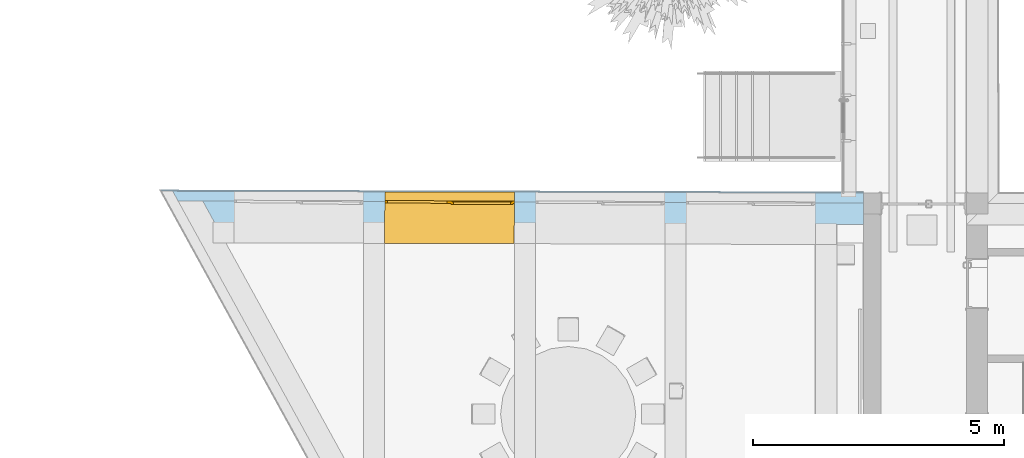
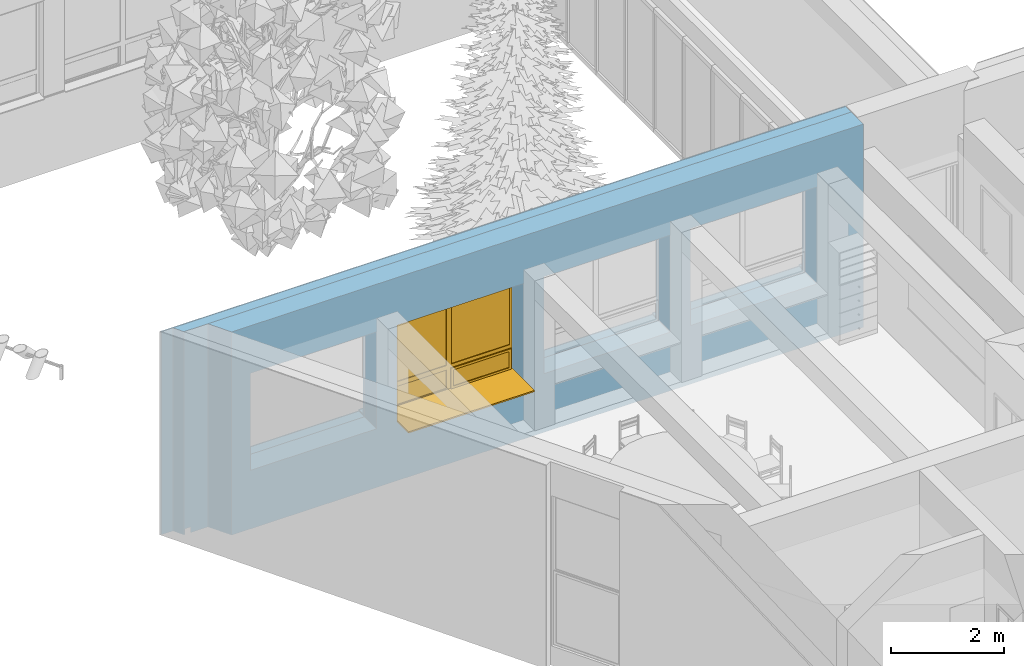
# One storey, part 84 of 194: 1 window, 4 openings, 1 element without a shape of its own, plus 3 elements that do not belong to this part.
"""IFC2X3 building model written with IfcOpenShell, lengths in millimetres."""

from ifc_helpers import new_model, entity, si_unit, converted_unit, derived_unit, money_unit, direction, frame, origin_with_axes, origin_2d_with_axis, place, context, subcontext, project, spatial, polyline, rectangle, outline, extrude, boolean, open_shell, faceted_brep, surface_model, material, type_object, element, fill, aggregate, save


model = new_model("IFC2X3")

# Units and contexts
model_context = context("Model", 3, precision=1e-05, world=origin_with_axes(), true_north=direction((0.0, 1.0)))
body_context = subcontext(model_context, "Body", "Model", "MODEL_VIEW")
ifc_project = project(units=[si_unit("LENGTHUNIT", "METRE", prefix="MILLI"), si_unit("AREAUNIT", "SQUARE_METRE"), si_unit("VOLUMEUNIT", "CUBIC_METRE"), converted_unit("PLANEANGLEUNIT", "DEGREE", entity("IfcPlaneAngleMeasure", 0.0174532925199), si_unit("PLANEANGLEUNIT", "RADIAN"), dimensions=[0, 0, 0, 0, 0, 0, 0]), si_unit("SOLIDANGLEUNIT", "STERADIAN"), money_unit("EUR"), converted_unit("TIMEUNIT", "Year", entity("IfcTimeMeasure", 31556926.0), si_unit("TIMEUNIT", "SECOND"), dimensions=[0, 0, 1, 0, 0, 0, 0]), si_unit("MASSUNIT", "GRAM", prefix="KILO"), si_unit("THERMODYNAMICTEMPERATUREUNIT", "DEGREE_CELSIUS"), si_unit("LUMINOUSINTENSITYUNIT", "LUMEN"), si_unit("ENERGYUNIT", "JOULE", prefix="MEGA"), derived_unit("THERMALCONDUCTANCEUNIT", [(si_unit("POWERUNIT", "WATT"), 1), (si_unit("LENGTHUNIT", "METRE"), -1), (si_unit("THERMODYNAMICTEMPERATUREUNIT", "KELVIN"), -1)]), derived_unit("SPECIFICHEATCAPACITYUNIT", [(si_unit("ENERGYUNIT", "JOULE"), 1), (si_unit("MASSUNIT", "GRAM", prefix="KILO"), -1), (si_unit("THERMODYNAMICTEMPERATUREUNIT", "KELVIN"), -1)]), derived_unit("MASSDENSITYUNIT", [(si_unit("MASSUNIT", "GRAM", prefix="KILO"), 1), (si_unit("VOLUMEUNIT", "CUBIC_METRE"), -1)])], contexts=[model_context])

# Site, building, storey
site_placement = place(None, origin_with_axes())
site = spatial("IfcSite", under=ifc_project, at=site_placement, Name="Site", CompositionType="ELEMENT")
building_placement = place(site_placement, origin_with_axes())
building = spatial("IfcBuilding", under=site, at=building_placement, Name="Building", CompositionType="ELEMENT")
storey_placement = place(building_placement, frame((0.0, 0.0, 3000.0), z_axis=(0.0, 0.0, 1.0), x_axis=(1.0, 0.0, 0.0)))
storey = spatial("IfcBuildingStorey", under=building, at=storey_placement, Name="2 KORRUS", CompositionType="ELEMENT", Elevation=3000.0)

# Window
window_style = type_object("IfcWindowStyle", Name="A2   2\xa0580×2\xa0100", ConstructionType="NOTDEFINED", OperationType="USERDEFINED", ParameterTakesPrecedence=False, Sizeable=False)
wall_placement = place(storey_placement, frame((24039.9995096, 22808.1040573, -420.0), z_axis=(0.0, 0.0, 1.0), x_axis=(0.999996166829, -0.0027688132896, 0.0)))
opening_3_placement = place(wall_placement, frame((5405.57062544, 0.0, 1270.0), z_axis=(0.0, 0.0, 1.0), x_axis=(1.0, 0.0, 0.0)))
window_placement = place(opening_3_placement, frame((1290.0, 9.09494701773e-10, 0.0), z_axis=(0.0, 0.0, 1.0), x_axis=(-1.0, 0.0, 0.0)))
window = element("IfcWindow", 1, at=window_placement, inside=storey, type_object=window_style, Name="välisaken * Double Window 22", OverallHeight=2100.0, OverallWidth=2580.0, context=body_context, shape_type="SurfaceModel", body=[
    faceted_brep([(2580.0, -219.999999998, 5.0), (2580.0, -19.9999999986, 5.0), (2580.0, -19.9999999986, 30.0), (2580.0, -219.999999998, 19.5184441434), (0.0, -19.9999999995, 5.0), (0.0, -219.999999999, 5.0), (0.0, -19.9999999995, 30.0), (0.0, -219.999999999, 19.5184441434)], [[[0, 1, 2, 3]], [[4, 1, 0, 5]], [[1, 4, 6, 2]], [[3, 2, 6, 7]], [[5, 0, 3, 7]], [[4, 5, 7, 6]]]),
    faceted_brep([(2580.0, -19.9999999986, 0.0), (2580.0, -19.9999999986, 5.0), (2580.0, -219.999999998, 5.0), (2580.0, -219.999999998, 0.0), (0.0, -19.9999999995, 0.0), (0.0, -19.9999999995, 5.0), (0.0, -219.999999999, 5.0), (0.0, -219.999999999, 0.0)], [[[0, 1, 2, 3]], [[4, 5, 1, 0]], [[1, 5, 6, 2]], [[3, 2, 6, 7]], [[0, 3, 7, 4]], [[7, 6, 5, 4]]]),
    faceted_brep([(-1.13686837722e-10, 30.0000000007, 0.0), (-1.13686837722e-10, 30.0000000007, 30.0), (0.0, 430.0, 30.0), (0.0, 430.0, 0.0), (2580.0, 30.0000000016, 0.0), (2580.0, 30.0000000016, 30.0), (2580.0, 430.000000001, 30.0), (2580.0, 830.000000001, 30.0), (0.0, 830.000000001, 30.0), (0.0, 830.000000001, 0.0), (2580.0, 830.000000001, 0.0), (2580.0, 430.000000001, 0.0)], [[[0, 1, 2, 3]], [[4, 5, 1, 0]], [[1, 5, 6, 7, 8, 2]], [[3, 2, 8, 9]], [[0, 3, 9, 10, 11, 4]], [[11, 6, 5, 4]], [[10, 7, 6, 11]], [[9, 8, 7, 10]]]),
    faceted_brep([(25.0, 30.0000000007, 475.0), (25.0, 30.0000000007, 50.0), (-1.13686837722e-10, 30.0000000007, 50.0), (-1.13686837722e-10, 30.0000000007, 2050.0), (50.0, 30.0000000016, 2050.0), (50.0, 30.0000000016, 550.0), (50.0, 30.0000000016, 475.0), (25.0, 5.00000000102, 475.0), (25.0, 5.00000000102, 50.0), (50.0, 5.00000000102, 50.0), (50.0, -19.9999999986, 50.0), (0.0, -19.9999999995, 50.0), (0.0, -19.9999999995, 2050.0), (50.0, -19.9999999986, 2050.0), (50.0, -19.9999999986, 550.0), (50.0, 5.00000000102, 475.0), (50.0, -19.9999999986, 450.0), (50.0, 5.00000000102, 450.0)], [[[0, 1, 2, 3, 4, 5, 6]], [[1, 0, 7, 8]], [[8, 9, 10, 11, 2, 1]], [[2, 11, 12, 3]], [[3, 12, 13, 4]], [[4, 13, 14, 5]], [[15, 6, 5, 14, 16, 17]], [[0, 6, 15, 7]], [[9, 8, 7, 15, 17]], [[9, 17, 16, 10]], [[11, 10, 16, 14, 13, 12]]]),
    faceted_brep([(1265.0, 30.0000000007, 50.0), (1265.0, 30.0000000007, 475.0), (1240.0, 30.0000000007, 475.0), (1240.0, 30.0000000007, 550.0), (1240.0, 30.0000000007, 2050.0), (1340.0, 30.0000000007, 2050.0), (1340.0, 30.0000000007, 550.0), (1340.0, 30.0000000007, 450.0), (1340.0, 30.0000000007, 50.0), (1265.0, 5.00000000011, 50.0), (1265.0, 5.00000000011, 475.0), (1240.0, 5.00000000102, 475.0), (1240.0, 5.00000000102, 450.0), (1240.0, -19.9999999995, 450.0), (1240.0, -19.9999999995, 550.0), (1240.0, -19.9999999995, 2050.0), (1340.0, -19.9999999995, 2050.0), (1340.0, -19.9999999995, 550.0), (1340.0, -19.9999999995, 450.0), (1340.0, -19.9999999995, 50.0), (1240.0, -19.9999999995, 50.0), (1240.0, 5.00000000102, 50.0)], [[[0, 1, 2, 3, 4, 5, 6, 7, 8]], [[1, 0, 9, 10]], [[11, 2, 1, 10]], [[11, 12, 13, 14, 3, 2]], [[3, 14, 15, 4]], [[4, 15, 16, 5]], [[5, 16, 17, 6]], [[6, 17, 18, 7]], [[7, 18, 19, 8]], [[9, 0, 8, 19, 20, 21]], [[12, 11, 10, 9, 21]], [[12, 21, 20, 13]], [[18, 17, 16, 15, 14, 13, 20, 19]]]),
    faceted_brep([(1240.0, 30.0000000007, 475.0), (50.0, 30.0000000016, 475.0), (50.0, 30.0000000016, 550.0), (1240.0, 30.0000000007, 550.0), (50.0, 5.00000000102, 475.0), (1240.0, 5.00000000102, 475.0), (50.0, 5.00000000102, 450.0), (50.0, -19.9999999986, 450.0), (50.0, -19.9999999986, 550.0), (1240.0, -19.9999999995, 550.0), (1240.0, -19.9999999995, 450.0), (1240.0, 5.00000000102, 450.0)], [[[0, 1, 2, 3]], [[4, 1, 0, 5]], [[4, 6, 7, 8, 2, 1]], [[2, 8, 9, 3]], [[5, 0, 3, 9, 10, 11]], [[6, 4, 5, 11]], [[6, 11, 10, 7]], [[10, 9, 8, 7]]]),
    faceted_brep([(50.0, 5.00000000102, 50.0), (25.0, 5.00000000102, 50.0), (25.0, 30.0000000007, 50.0), (-1.13686837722e-10, 30.0000000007, 50.0), (0.0, -19.9999999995, 50.0), (50.0, -19.9999999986, 50.0), (1240.0, 5.00000000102, 50.0), (1265.0, 5.00000000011, 50.0), (1265.0, 5.00000000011, 25.0), (25.0, 5.00000000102, 25.0), (25.0, 30.0000000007, 25.0), (1265.0, 30.0000000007, 25.0), (1265.0, 30.0000000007, 50.0), (1340.0, 30.0000000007, 50.0), (2530.0, 30.0000000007, 50.0), (2580.0, 30.0000000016, 50.0), (2580.0, 30.0000000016, 0.0), (-1.13686837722e-10, 30.0000000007, 0.0), (0.0, -19.9999999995, 0.0), (2580.0, -19.9999999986, 50.0), (2530.0, -19.9999999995, 50.0), (1340.0, -19.9999999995, 50.0), (1240.0, -19.9999999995, 50.0), (2580.0, -19.9999999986, 0.0)], [[[0, 1, 2, 3, 4, 5]], [[1, 0, 6, 7, 8, 9]], [[10, 2, 1, 9]], [[11, 12, 13, 14, 15, 16, 17, 3, 2, 10]], [[17, 18, 4, 3]], [[19, 20, 21, 22, 5, 4, 18, 23]], [[6, 0, 5, 22]], [[7, 6, 22, 21, 13, 12]], [[7, 12, 11, 8]], [[11, 10, 9, 8]], [[13, 21, 20, 14]], [[14, 20, 19, 15]], [[15, 19, 23, 16]], [[16, 23, 18, 17]]]),
    faceted_brep([(2530.0, -19.9999999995, 450.0), (2530.0, -19.9999999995, 550.0), (2530.0, 30.0000000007, 550.0), (2530.0, 30.0000000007, 450.0), (2530.0, -19.9999999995, 50.0), (2580.0, -19.9999999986, 50.0), (2580.0, -19.9999999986, 2050.0), (2530.0, -19.9999999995, 2050.0), (2530.0, 30.0000000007, 2050.0), (2580.0, 30.0000000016, 2050.0), (2580.0, 30.0000000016, 50.0), (2530.0, 30.0000000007, 50.0)], [[[0, 1, 2, 3]], [[0, 4, 5, 6, 7, 1]], [[1, 7, 8, 2]], [[3, 2, 8, 9, 10, 11]], [[4, 0, 3, 11]], [[5, 4, 11, 10]], [[6, 5, 10, 9]], [[7, 6, 9, 8]]]),
    faceted_brep([(1340.0, -19.9999999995, 450.0), (1340.0, -19.9999999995, 550.0), (1340.0, 30.0000000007, 550.0), (1340.0, 30.0000000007, 450.0), (2530.0, -19.9999999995, 450.0), (2530.0, -19.9999999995, 550.0), (2530.0, 30.0000000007, 550.0), (2530.0, 30.0000000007, 450.0)], [[[0, 1, 2, 3]], [[0, 4, 5, 1]], [[1, 5, 6, 2]], [[3, 2, 6, 7]], [[4, 0, 3, 7]], [[5, 4, 7, 6]]]),
    faceted_brep([(1340.0, -19.9999999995, 2050.0), (1240.0, -19.9999999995, 2050.0), (1240.0, 30.0000000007, 2050.0), (1340.0, 30.0000000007, 2050.0), (2530.0, -19.9999999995, 2050.0), (2580.0, -19.9999999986, 2050.0), (2580.0, -19.9999999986, 2100.0), (0.0, -19.9999999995, 2100.0), (0.0, -19.9999999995, 2050.0), (50.0, -19.9999999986, 2050.0), (50.0, 30.0000000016, 2050.0), (-1.13686837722e-10, 30.0000000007, 2050.0), (-1.13686837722e-10, 30.0000000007, 2100.0), (2580.0, 30.0000000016, 2100.0), (2580.0, 30.0000000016, 2050.0), (2530.0, 30.0000000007, 2050.0)], [[[0, 1, 2, 3]], [[0, 4, 5, 6, 7, 8, 9, 1]], [[1, 9, 10, 2]], [[3, 2, 10, 11, 12, 13, 14, 15]], [[4, 0, 3, 15]], [[5, 4, 15, 14]], [[6, 5, 14, 13]], [[7, 6, 13, 12]], [[8, 7, 12, 11]], [[9, 8, 11, 10]]]),
    surface_model("IfcShellBasedSurfaceModel", [(2530.0, -4.9999999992, 550.0), (2530.0, -4.9999999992, 2050.0), (1340.0, -5.00000000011, 2050.0), (1340.0, -5.00000000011, 550.0)], [open_shell([[[0, 1, 2, 3]]])]),
    surface_model("IfcShellBasedSurfaceModel", [(2530.0, 15.0000000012, 550.0), (1340.0, 15.0000000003, 550.0), (1340.0, 15.0000000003, 2050.0), (2530.0, 15.0000000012, 2050.0)], [open_shell([[[0, 1, 2, 3]]])]),
    surface_model("IfcShellBasedSurfaceModel", [(1240.0, -4.99999999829, 550.0), (1240.0, -4.99999999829, 2050.0), (50.0, -4.9999999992, 2050.0), (50.0, -4.9999999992, 550.0)], [open_shell([[[0, 1, 2, 3]]])]),
    surface_model("IfcShellBasedSurfaceModel", [(1240.0, 15.0000000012, 550.0), (50.0, 15.0000000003, 550.0), (50.0, 15.0000000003, 2050.0), (1240.0, 15.0000000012, 2050.0)], [open_shell([[[0, 1, 2, 3]]])]),
    surface_model("IfcShellBasedSurfaceModel", [(2530.0, -4.9999999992, 50.0), (2530.0, -4.9999999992, 450.0), (1340.0, -5.00000000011, 450.0), (1340.0, -5.00000000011, 50.0)], [open_shell([[[0, 1, 2, 3]]])]),
    surface_model("IfcShellBasedSurfaceModel", [(2530.0, 15.0000000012, 50.0), (1340.0, 15.0000000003, 50.0), (1340.0, 15.0000000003, 450.0), (2530.0, 15.0000000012, 450.0)], [open_shell([[[0, 1, 2, 3]]])]),
    faceted_brep([(1215.0, 5.00000000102, 425.0), (1265.0, 5.00000000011, 425.0), (1265.0, 55.0000000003, 425.0), (1215.0, 55.0000000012, 425.0), (1215.0, 5.00000000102, 75.0), (1265.0, 5.00000000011, 75.0), (1265.0, 55.0000000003, 75.0), (1215.0, 55.0000000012, 75.0)], [[[0, 1, 2, 3]], [[0, 4, 5, 1]], [[1, 5, 6, 2]], [[3, 2, 6, 7]], [[4, 0, 3, 7]], [[5, 4, 7, 6]]]),
    faceted_brep([(74.9999999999, 5.00000000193, 75.0), (25.0, 5.00000000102, 75.0), (25.0, 55.0000000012, 75.0), (75.0, 55.0000000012, 75.0), (74.9999999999, 5.00000000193, 425.0), (25.0, 5.00000000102, 425.0), (25.0, 55.0000000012, 425.0), (75.0, 55.0000000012, 425.0)], [[[0, 1, 2, 3]], [[0, 4, 5, 1]], [[1, 5, 6, 2]], [[3, 2, 6, 7]], [[4, 0, 3, 7]], [[5, 4, 7, 6]]]),
    faceted_brep([(25.0, 5.00000000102, 25.0), (25.0, 5.00000000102, 75.0), (25.0, 55.0000000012, 75.0), (25.0, 55.0000000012, 25.0), (1265.0, 5.00000000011, 25.0), (1265.0, 5.00000000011, 75.0), (1215.0, 5.00000000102, 75.0), (74.9999999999, 5.00000000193, 75.0), (75.0, 55.0000000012, 75.0), (1215.0, 55.0000000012, 75.0), (1265.0, 55.0000000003, 75.0), (1265.0, 55.0000000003, 25.0)], [[[0, 1, 2, 3]], [[0, 4, 5, 6, 7, 1]], [[1, 7, 8, 2]], [[3, 2, 8, 9, 10, 11]], [[4, 0, 3, 11]], [[5, 4, 11, 10]], [[6, 5, 10, 9]], [[7, 6, 9, 8]]]),
    faceted_brep([(1265.0, 5.00000000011, 475.0), (1265.0, 5.00000000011, 425.0), (1265.0, 55.0000000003, 425.0), (1265.0, 55.0000000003, 475.0), (25.0, 5.00000000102, 475.0), (25.0, 5.00000000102, 425.0), (74.9999999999, 5.00000000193, 425.0), (1215.0, 5.00000000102, 425.0), (1215.0, 55.0000000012, 425.0), (75.0, 55.0000000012, 425.0), (25.0, 55.0000000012, 425.0), (25.0, 55.0000000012, 475.0)], [[[0, 1, 2, 3]], [[0, 4, 5, 6, 7, 1]], [[1, 7, 8, 2]], [[3, 2, 8, 9, 10, 11]], [[4, 0, 3, 11]], [[5, 4, 11, 10]], [[6, 5, 10, 9]], [[7, 6, 9, 8]]]),
    surface_model("IfcShellBasedSurfaceModel", [(1215.0, 20.0000000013, 75.0), (1215.0, 20.0000000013, 425.0), (75.0, 20.0000000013, 425.0), (75.0, 20.0000000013, 75.0)], [open_shell([[[0, 1, 2, 3]]])]),
    surface_model("IfcShellBasedSurfaceModel", [(1215.0, 40.0000000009, 75.0), (75.0, 40.0000000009, 75.0), (75.0, 40.0000000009, 425.0), (1215.0, 40.0000000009, 425.0)], [open_shell([[[0, 1, 2, 3]]])]),
])

# Wall, openings
wall_type = type_object("IfcWallType", Name="VS4", PredefinedType="NOTDEFINED")
wall = element("IfcWall", 2, at=wall_placement, inside=storey, type_object=wall_type, Name="VS4")
opening_1_placement = place(wall_placement, frame((11402.4933934, 0.0, 1270.0), z_axis=(0.0, 0.0, 1.0), x_axis=(1.0, 0.0, 0.0)))
element("IfcOpeningElement", 3, at=opening_1_placement, cuts=wall, Name="välisaken * Double Window 22", context=body_context, shape_type="SweptSolid", body=[
    extrude(rectangle(XDim=2580.0, YDim=2100.0, at=origin_2d_with_axis()), frame((0.0, 19.9999999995, 1050.0), z_axis=(0.0, -1.0, 0.0), x_axis=(1.0, 0.0, 0.0)), (0.0, 0.0, 1.0), 1100.0),
    extrude(rectangle(XDim=2580.0, YDim=2100.0, at=origin_2d_with_axis()), frame((1.13686837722e-10, 19.9999999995, 1050.0), z_axis=(0.0, 1.0, 0.0), x_axis=(1.0, 0.0, 0.0)), (0.0, 0.0, 1.0), 850.0),
])
opening_2_placement = place(wall_placement, frame((8405.57062544, -9.09494701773e-10, 1270.0), z_axis=(0.0, 0.0, 1.0), x_axis=(1.0, 0.0, 0.0)))
element("IfcOpeningElement", 4, at=opening_2_placement, cuts=wall, Name="välisaken * Double Window 22", context=body_context, shape_type="SweptSolid", body=[
    extrude(rectangle(XDim=2580.0, YDim=2100.0, at=origin_2d_with_axis()), frame((0.0, 19.9999999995, 1050.0), z_axis=(0.0, -1.0, 0.0), x_axis=(1.0, 0.0, 0.0)), (0.0, 0.0, 1.0), 1100.0),
    extrude(rectangle(XDim=2580.0, YDim=2100.0, at=origin_2d_with_axis()), frame((0.0, 19.9999999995, 1050.0), z_axis=(0.0, 1.0, 0.0), x_axis=(1.0, 0.0, 0.0)), (0.0, 0.0, 1.0), 850.0),
])
opening_3 = element("IfcOpeningElement", 5, at=opening_3_placement, cuts=wall, Name="välisaken * Double Window 22", context=body_context, shape_type="SweptSolid", body=[
    extrude(rectangle(XDim=2580.0, YDim=2100.0, at=origin_2d_with_axis()), frame((1.13686837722e-10, 20.0000000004, 1050.0), z_axis=(0.0, -1.0, 0.0), x_axis=(1.0, 0.0, 0.0)), (0.0, 0.0, 1.0), 1100.0),
    extrude(rectangle(XDim=2580.0, YDim=2100.0, at=origin_2d_with_axis()), frame((1.13686837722e-10, 20.0000000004, 1050.0), z_axis=(0.0, 1.0, 0.0), x_axis=(1.0, 0.0, 0.0)), (0.0, 0.0, 1.0), 850.0),
])

fill(opening_3, window)

# Opening
opening_4_placement = place(wall_placement, frame((2405.57062544, 9.09494701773e-10, 1270.0), z_axis=(0.0, 0.0, 1.0), x_axis=(1.0, 0.0, 0.0)))
element("IfcOpeningElement", 6, at=opening_4_placement, cuts=wall, Name="välisaken * Double Window 22", context=body_context, shape_type="SweptSolid", body=[
    extrude(rectangle(XDim=2580.0, YDim=2100.0, at=origin_2d_with_axis()), frame((1.13686837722e-10, 19.9999999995, 1050.0), z_axis=(0.0, -1.0, 0.0), x_axis=(1.0, 0.0, 0.0)), (0.0, 0.0, 1.0), 1100.0),
    extrude(rectangle(XDim=2580.0, YDim=2100.0, at=origin_2d_with_axis()), frame((1.13686837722e-10, 19.9999999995, 1050.0), z_axis=(0.0, 1.0, 0.0), x_axis=(1.0, 0.0, 0.0)), (0.0, 0.0, 1.0), 850.0),
])

# Building element part
ifc_material_1 = material(Name="Tellis - Konstuktsioon")
building_element_part_1_placement = place(wall_placement, origin_with_axes())
solid_1 = boolean("DIFFERENCE", boolean("DIFFERENCE", boolean("DIFFERENCE", boolean("DIFFERENCE", boolean("DIFFERENCE", boolean("DIFFERENCE", boolean("DIFFERENCE", boolean("DIFFERENCE", extrude(outline(polyline([(-373.259010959, -430.0), (13648.1213334, -430.0), (13648.1213334, 0.0), (-373.259010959, 0.0), (-373.259010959, -430.0)])), origin_with_axes(), (0.0, 0.0, 1.0), 4400.0), faceted_brep([(729.551703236, -430.0, 0.0), (729.551703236, -430.0, 4400.0), (-373.259010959, -430.0, 4400.0), (-373.259010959, -430.0, 0.0), (491.497507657, 0.0, 4400.0), (491.497507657, 0.0, 0.0), (-373.259010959, 0.0, 4400.0), (-373.259010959, 0.0, 0.0)], [[[0, 1, 2, 3]], [[4, 1, 0, 5]], [[1, 4, 6, 2]], [[3, 2, 6, 7]], [[5, 0, 3, 7]], [[4, 5, 7, 6]]])), faceted_brep([(18.915191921, 0.0, 122.647898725), (18.9151919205, 9.09494701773e-10, 0.0), (134.721092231, 9.09494701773e-10, 0.0), (134.72109223, 0.0, 122.647898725), (-90.7482444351, 200.0, 122.647898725), (-90.7482444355, 200.000000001, 0.0), (479.482351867, 200.000000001, 0.0), (484.103394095, 191.572319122, 0.0), (484.103394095, 191.572319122, 122.647898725), (479.482351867, 200.0, 122.647898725)], [[[0, 1, 2, 3]], [[1, 0, 4, 5]], [[2, 1, 5, 6, 7]], [[3, 2, 7, 8]], [[0, 3, 8, 9, 4]], [[5, 4, 9, 6]], [[7, 6, 9, 8]]])), faceted_brep([(-373.259010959, 0.0, 0.0), (0.0, 9.09494701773e-10, 0.0), (0.0, 9.09494701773e-10, 4400.0), (-373.259010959, 0.0, 4400.0), (-373.259010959, 200.0, 0.0), (-110.722881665, 200.000000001, 0.0), (-110.722881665, 200.000000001, 4400.0), (-373.259010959, 200.0, 4400.0)], [[[0, 1, 2, 3]], [[1, 0, 4, 5]], [[2, 1, 5, 6]], [[3, 2, 6, 7]], [[4, 0, 3, 7]], [[5, 4, 7, 6]]])), faceted_brep([(13416.1760753, 0.0081175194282, 340.0), (13416.176095, 9.09494701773e-10, 420.0), (13323.1995313, 0.151845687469, 420.0), (13323.1995313, 0.151845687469, 340.0), (13416.176095, 9.09494701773e-10, 0.0), (13648.1213334, 0.0, 0.0), (13648.1213334, 0.0, 420.0), (13648.1213334, 200.0, 420.0), (13322.7166463, 200.000000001, 420.0), (13322.7166463, 200.000000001, 340.0), (13415.6925541, 200.0, 340.0), (13415.6925541, 200.0, 0.0), (13648.1213334, 200.0, 0.0)], [[[0, 1, 2, 3]], [[0, 4, 5, 6, 1]], [[2, 1, 6, 7, 8]], [[3, 2, 8, 9]], [[0, 3, 9, 10]], [[4, 0, 10, 11]], [[5, 4, 11, 12]], [[6, 5, 12, 7]], [[9, 8, 7, 12, 11, 10]]])), faceted_brep([(728.20897733, 54.9444939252, 1300.0), (12965.6129154, 88.8277104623, 1300.0), (12965.6129154, 88.8277104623, 3400.0), (728.20897733, 54.9444939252, 3400.0), (727.807344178, 200.0, 1300.0), (12965.3050989, 200.0, 1300.0), (12965.3050989, 200.0, 3400.0), (727.807344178, 200.0, 3400.0)], [[[0, 1, 2, 3]], [[0, 4, 5, 1]], [[1, 5, 6, 2]], [[7, 3, 2, 6]], [[3, 7, 4, 0]], [[6, 5, 4, 7]]])), faceted_brep([(-339.326373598, 200.000000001, 0.0), (-339.326373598, 200.000000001, 4400.0), (-373.259010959, 200.0, 4400.0), (-373.259010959, 200.0, 0.0), (-350.398661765, 220.0, 4400.0), (-350.398661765, 220.0, 0.0), (-373.259010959, 219.999999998, 4400.0), (-373.259010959, 219.999999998, 0.0)], [[[0, 1, 2, 3]], [[4, 1, 0, 5]], [[1, 4, 6, 2]], [[6, 7, 3, 2]], [[5, 0, 3, 7]], [[4, 5, 7, 6]]])), faceted_brep([(-90.7482444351, 200.0, 122.647898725), (-90.7482444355, 200.000000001, 0.0), (479.482351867, 200.000000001, 0.0), (479.482351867, 200.0, 122.647898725), (-101.714588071, 220.000000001, 0.0), (-101.714588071, 220.000000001, 122.647898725), (468.516008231, 220.0, 0.0), (468.516008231, 220.000000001, 122.647898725)], [[[0, 1, 2, 3]], [[4, 1, 0, 5]], [[6, 2, 1, 4]], [[2, 6, 7, 3]], [[7, 5, 0, 3]], [[7, 6, 4, 5]]])), faceted_brep([(727.807344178, 200.0, 1300.0), (12965.3050989, 200.0, 1300.0), (12965.3050989, 200.0, 3400.0), (727.807344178, 200.0, 3400.0), (727.7519677, 220.0, 1300.0), (12965.2497224, 220.000000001, 1300.0), (12965.2497224, 220.000000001, 3400.0), (727.7519677, 219.999999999, 3400.0)], [[[0, 1, 2, 3]], [[4, 5, 1, 0]], [[5, 6, 2, 1]], [[6, 7, 3, 2]], [[7, 4, 0, 3]], [[4, 7, 6, 5]]]))
building_element_part_1 = element("IfcBuildingElementPart", 7, at=building_element_part_1_placement, material=ifc_material_1, Name="Tellis - Konstuktsioon", context=body_context, shape_type="CSG", body=[
    boolean("DIFFERENCE", solid_1, faceted_brep([(13322.6683211, 220.000000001, 340.0), (13322.6683211, 220.000000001, 420.0), (13648.1213334, 220.0, 420.0), (13648.1213334, 219.999999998, 0.0), (13415.6442, 220.0, 0.0), (13415.6442, 220.0, 340.0), (13322.7166463, 200.000000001, 340.0), (13322.7166463, 200.000000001, 420.0), (13648.1213334, 200.0, 420.0), (13648.1213334, 200.0, 0.0), (13415.6925541, 200.0, 0.0), (13415.6925541, 200.0, 340.0)], [[[0, 1, 2, 3, 4, 5]], [[1, 0, 6, 7]], [[8, 2, 1, 7]], [[2, 8, 9, 3]], [[10, 4, 3, 9]], [[5, 4, 10, 11]], [[0, 5, 11, 6]], [[11, 10, 9, 8, 7, 6]]])),
])

ifc_material_2 = material(Name="Soojustus - Plastik Kõva")
building_element_part_2_placement = place(wall_placement, origin_with_axes())
solid_2 = boolean("DIFFERENCE", boolean("DIFFERENCE", boolean("DIFFERENCE", boolean("DIFFERENCE", boolean("DIFFERENCE", boolean("DIFFERENCE", boolean("DIFFERENCE", boolean("DIFFERENCE", extrude(outline(polyline([(-373.259010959, 0.0), (13648.1213334, 0.0), (13648.1213334, 200.0), (-373.259010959, 200.0), (-373.259010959, 0.0)])), origin_with_axes(), (0.0, 0.0, 1.0), 4400.0), faceted_brep([(729.551703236, -430.0, 0.0), (729.551703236, -430.0, 4400.0), (-373.259010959, -430.0, 4400.0), (-373.259010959, -430.0, 0.0), (491.497507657, 0.0, 4400.0), (491.497507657, 0.0, 0.0), (-373.259010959, 0.0, 4400.0), (-373.259010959, 0.0, 0.0)], [[[0, 1, 2, 3]], [[4, 1, 0, 5]], [[1, 4, 6, 2]], [[3, 2, 6, 7]], [[5, 0, 3, 7]], [[4, 5, 7, 6]]])), faceted_brep([(18.915191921, 0.0, 122.647898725), (18.9151919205, 9.09494701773e-10, 0.0), (134.721092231, 9.09494701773e-10, 0.0), (134.72109223, 0.0, 122.647898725), (-90.7482444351, 200.0, 122.647898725), (-90.7482444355, 200.000000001, 0.0), (479.482351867, 200.000000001, 0.0), (484.103394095, 191.572319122, 0.0), (484.103394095, 191.572319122, 122.647898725), (479.482351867, 200.0, 122.647898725)], [[[0, 1, 2, 3]], [[1, 0, 4, 5]], [[2, 1, 5, 6, 7]], [[3, 2, 7, 8]], [[0, 3, 8, 9, 4]], [[5, 4, 9, 6]], [[7, 6, 9, 8]]])), faceted_brep([(-373.259010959, 0.0, 0.0), (0.0, 9.09494701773e-10, 0.0), (0.0, 9.09494701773e-10, 4400.0), (-373.259010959, 0.0, 4400.0), (-373.259010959, 200.0, 0.0), (-110.722881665, 200.000000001, 0.0), (-110.722881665, 200.000000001, 4400.0), (-373.259010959, 200.0, 4400.0)], [[[0, 1, 2, 3]], [[1, 0, 4, 5]], [[2, 1, 5, 6]], [[3, 2, 6, 7]], [[4, 0, 3, 7]], [[5, 4, 7, 6]]])), faceted_brep([(13416.1760753, 0.0081175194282, 340.0), (13416.176095, 9.09494701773e-10, 420.0), (13323.1995313, 0.151845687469, 420.0), (13323.1995313, 0.151845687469, 340.0), (13416.176095, 9.09494701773e-10, 0.0), (13648.1213334, 0.0, 0.0), (13648.1213334, 0.0, 420.0), (13648.1213334, 200.0, 420.0), (13322.7166463, 200.000000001, 420.0), (13322.7166463, 200.000000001, 340.0), (13415.6925541, 200.0, 340.0), (13415.6925541, 200.0, 0.0), (13648.1213334, 200.0, 0.0)], [[[0, 1, 2, 3]], [[0, 4, 5, 6, 1]], [[2, 1, 6, 7, 8]], [[3, 2, 8, 9]], [[0, 3, 9, 10]], [[4, 0, 10, 11]], [[5, 4, 11, 12]], [[6, 5, 12, 7]], [[9, 8, 7, 12, 11, 10]]])), faceted_brep([(728.20897733, 54.9444939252, 1300.0), (12965.6129154, 88.8277104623, 1300.0), (12965.6129154, 88.8277104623, 3400.0), (728.20897733, 54.9444939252, 3400.0), (727.807344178, 200.0, 1300.0), (12965.3050989, 200.0, 1300.0), (12965.3050989, 200.0, 3400.0), (727.807344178, 200.0, 3400.0)], [[[0, 1, 2, 3]], [[0, 4, 5, 1]], [[1, 5, 6, 2]], [[7, 3, 2, 6]], [[3, 7, 4, 0]], [[6, 5, 4, 7]]])), faceted_brep([(-339.326373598, 200.000000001, 0.0), (-339.326373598, 200.000000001, 4400.0), (-373.259010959, 200.0, 4400.0), (-373.259010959, 200.0, 0.0), (-350.398661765, 220.0, 4400.0), (-350.398661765, 220.0, 0.0), (-373.259010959, 219.999999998, 4400.0), (-373.259010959, 219.999999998, 0.0)], [[[0, 1, 2, 3]], [[4, 1, 0, 5]], [[1, 4, 6, 2]], [[6, 7, 3, 2]], [[5, 0, 3, 7]], [[4, 5, 7, 6]]])), faceted_brep([(-90.7482444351, 200.0, 122.647898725), (-90.7482444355, 200.000000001, 0.0), (479.482351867, 200.000000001, 0.0), (479.482351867, 200.0, 122.647898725), (-101.714588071, 220.000000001, 0.0), (-101.714588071, 220.000000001, 122.647898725), (468.516008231, 220.0, 0.0), (468.516008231, 220.000000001, 122.647898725)], [[[0, 1, 2, 3]], [[4, 1, 0, 5]], [[6, 2, 1, 4]], [[2, 6, 7, 3]], [[7, 5, 0, 3]], [[7, 6, 4, 5]]])), faceted_brep([(727.807344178, 200.0, 1300.0), (12965.3050989, 200.0, 1300.0), (12965.3050989, 200.0, 3400.0), (727.807344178, 200.0, 3400.0), (727.7519677, 220.0, 1300.0), (12965.2497224, 220.000000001, 1300.0), (12965.2497224, 220.000000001, 3400.0), (727.7519677, 219.999999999, 3400.0)], [[[0, 1, 2, 3]], [[4, 5, 1, 0]], [[5, 6, 2, 1]], [[6, 7, 3, 2]], [[7, 4, 0, 3]], [[4, 7, 6, 5]]]))
building_element_part_2 = element("IfcBuildingElementPart", 8, at=building_element_part_2_placement, material=ifc_material_2, Name="Soojustus - Plastik Kõva", context=body_context, shape_type="CSG", body=[
    boolean("DIFFERENCE", solid_2, faceted_brep([(13322.6683211, 220.000000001, 340.0), (13322.6683211, 220.000000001, 420.0), (13648.1213334, 220.0, 420.0), (13648.1213334, 219.999999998, 0.0), (13415.6442, 220.0, 0.0), (13415.6442, 220.0, 340.0), (13322.7166463, 200.000000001, 340.0), (13322.7166463, 200.000000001, 420.0), (13648.1213334, 200.0, 420.0), (13648.1213334, 200.0, 0.0), (13415.6925541, 200.0, 0.0), (13415.6925541, 200.0, 340.0)], [[[0, 1, 2, 3, 4, 5]], [[1, 0, 6, 7]], [[8, 2, 1, 7]], [[2, 8, 9, 3]], [[10, 4, 3, 9]], [[5, 4, 10, 11]], [[0, 5, 11, 6]], [[11, 10, 9, 8, 7, 6]]])),
])

ifc_material_3 = material(Name="Tellis - Viimistlus")
building_element_part_3_placement = place(wall_placement, origin_with_axes())
solid_3 = boolean("DIFFERENCE", boolean("DIFFERENCE", boolean("DIFFERENCE", boolean("DIFFERENCE", boolean("DIFFERENCE", boolean("DIFFERENCE", boolean("DIFFERENCE", boolean("DIFFERENCE", extrude(outline(polyline([(-373.259010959, 200.0), (13648.1213334, 200.0), (13648.1213334, 219.999999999), (-373.259010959, 219.999999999), (-373.259010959, 200.0)])), origin_with_axes(), (0.0, 0.0, 1.0), 4400.0), faceted_brep([(729.551703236, -430.0, 0.0), (729.551703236, -430.0, 4400.0), (-373.259010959, -430.0, 4400.0), (-373.259010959, -430.0, 0.0), (491.497507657, 0.0, 4400.0), (491.497507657, 0.0, 0.0), (-373.259010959, 0.0, 4400.0), (-373.259010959, 0.0, 0.0)], [[[0, 1, 2, 3]], [[4, 1, 0, 5]], [[1, 4, 6, 2]], [[3, 2, 6, 7]], [[5, 0, 3, 7]], [[4, 5, 7, 6]]])), faceted_brep([(18.915191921, 0.0, 122.647898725), (18.9151919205, 9.09494701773e-10, 0.0), (134.721092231, 9.09494701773e-10, 0.0), (134.72109223, 0.0, 122.647898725), (-90.7482444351, 200.0, 122.647898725), (-90.7482444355, 200.000000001, 0.0), (479.482351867, 200.000000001, 0.0), (484.103394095, 191.572319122, 0.0), (484.103394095, 191.572319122, 122.647898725), (479.482351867, 200.0, 122.647898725)], [[[0, 1, 2, 3]], [[1, 0, 4, 5]], [[2, 1, 5, 6, 7]], [[3, 2, 7, 8]], [[0, 3, 8, 9, 4]], [[5, 4, 9, 6]], [[7, 6, 9, 8]]])), faceted_brep([(-373.259010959, 0.0, 0.0), (0.0, 9.09494701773e-10, 0.0), (0.0, 9.09494701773e-10, 4400.0), (-373.259010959, 0.0, 4400.0), (-373.259010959, 200.0, 0.0), (-110.722881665, 200.000000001, 0.0), (-110.722881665, 200.000000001, 4400.0), (-373.259010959, 200.0, 4400.0)], [[[0, 1, 2, 3]], [[1, 0, 4, 5]], [[2, 1, 5, 6]], [[3, 2, 6, 7]], [[4, 0, 3, 7]], [[5, 4, 7, 6]]])), faceted_brep([(13416.1760753, 0.0081175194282, 340.0), (13416.176095, 9.09494701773e-10, 420.0), (13323.1995313, 0.151845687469, 420.0), (13323.1995313, 0.151845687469, 340.0), (13416.176095, 9.09494701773e-10, 0.0), (13648.1213334, 0.0, 0.0), (13648.1213334, 0.0, 420.0), (13648.1213334, 200.0, 420.0), (13322.7166463, 200.000000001, 420.0), (13322.7166463, 200.000000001, 340.0), (13415.6925541, 200.0, 340.0), (13415.6925541, 200.0, 0.0), (13648.1213334, 200.0, 0.0)], [[[0, 1, 2, 3]], [[0, 4, 5, 6, 1]], [[2, 1, 6, 7, 8]], [[3, 2, 8, 9]], [[0, 3, 9, 10]], [[4, 0, 10, 11]], [[5, 4, 11, 12]], [[6, 5, 12, 7]], [[9, 8, 7, 12, 11, 10]]])), faceted_brep([(728.20897733, 54.9444939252, 1300.0), (12965.6129154, 88.8277104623, 1300.0), (12965.6129154, 88.8277104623, 3400.0), (728.20897733, 54.9444939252, 3400.0), (727.807344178, 200.0, 1300.0), (12965.3050989, 200.0, 1300.0), (12965.3050989, 200.0, 3400.0), (727.807344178, 200.0, 3400.0)], [[[0, 1, 2, 3]], [[0, 4, 5, 1]], [[1, 5, 6, 2]], [[7, 3, 2, 6]], [[3, 7, 4, 0]], [[6, 5, 4, 7]]])), faceted_brep([(-339.326373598, 200.000000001, 0.0), (-339.326373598, 200.000000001, 4400.0), (-373.259010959, 200.0, 4400.0), (-373.259010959, 200.0, 0.0), (-350.398661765, 220.0, 4400.0), (-350.398661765, 220.0, 0.0), (-373.259010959, 219.999999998, 4400.0), (-373.259010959, 219.999999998, 0.0)], [[[0, 1, 2, 3]], [[4, 1, 0, 5]], [[1, 4, 6, 2]], [[6, 7, 3, 2]], [[5, 0, 3, 7]], [[4, 5, 7, 6]]])), faceted_brep([(-90.7482444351, 200.0, 122.647898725), (-90.7482444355, 200.000000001, 0.0), (479.482351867, 200.000000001, 0.0), (479.482351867, 200.0, 122.647898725), (-101.714588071, 220.000000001, 0.0), (-101.714588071, 220.000000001, 122.647898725), (468.516008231, 220.0, 0.0), (468.516008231, 220.000000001, 122.647898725)], [[[0, 1, 2, 3]], [[4, 1, 0, 5]], [[6, 2, 1, 4]], [[2, 6, 7, 3]], [[7, 5, 0, 3]], [[7, 6, 4, 5]]])), faceted_brep([(727.807344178, 200.0, 1300.0), (12965.3050989, 200.0, 1300.0), (12965.3050989, 200.0, 3400.0), (727.807344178, 200.0, 3400.0), (727.7519677, 220.0, 1300.0), (12965.2497224, 220.000000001, 1300.0), (12965.2497224, 220.000000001, 3400.0), (727.7519677, 219.999999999, 3400.0)], [[[0, 1, 2, 3]], [[4, 5, 1, 0]], [[5, 6, 2, 1]], [[6, 7, 3, 2]], [[7, 4, 0, 3]], [[4, 7, 6, 5]]]))
building_element_part_3 = element("IfcBuildingElementPart", 9, at=building_element_part_3_placement, material=ifc_material_3, Name="Tellis - Viimistlus", context=body_context, shape_type="CSG", body=[
    boolean("DIFFERENCE", solid_3, faceted_brep([(13322.6683211, 220.000000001, 340.0), (13322.6683211, 220.000000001, 420.0), (13648.1213334, 220.0, 420.0), (13648.1213334, 219.999999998, 0.0), (13415.6442, 220.0, 0.0), (13415.6442, 220.0, 340.0), (13322.7166463, 200.000000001, 340.0), (13322.7166463, 200.000000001, 420.0), (13648.1213334, 200.0, 420.0), (13648.1213334, 200.0, 0.0), (13415.6925541, 200.0, 0.0), (13415.6925541, 200.0, 340.0)], [[[0, 1, 2, 3, 4, 5]], [[1, 0, 6, 7]], [[8, 2, 1, 7]], [[2, 8, 9, 3]], [[10, 4, 3, 9]], [[5, 4, 10, 11]], [[0, 5, 11, 6]], [[11, 10, 9, 8, 7, 6]]])),
])

aggregate(wall, [building_element_part_1, building_element_part_2, building_element_part_3])

save(model, "model.ifc")
